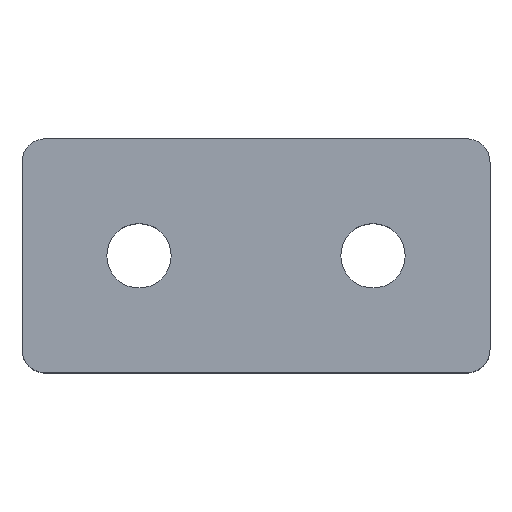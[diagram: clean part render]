
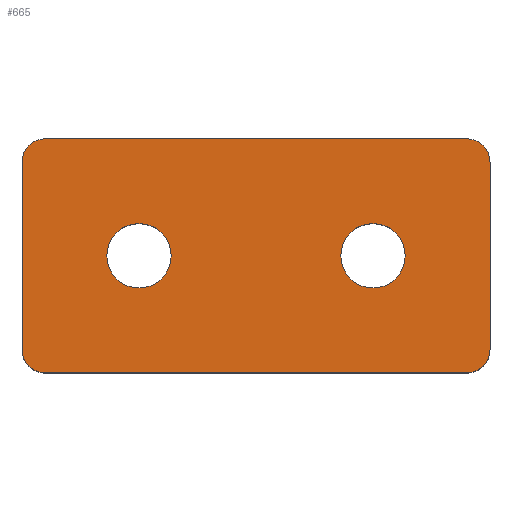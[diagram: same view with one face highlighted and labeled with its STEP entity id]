
A CAD part, top view. The second image highlights one B-rep face of the part: STEP entity #665.
In plain terms, the highlighted planar face has unit normal (0, 0, 1).
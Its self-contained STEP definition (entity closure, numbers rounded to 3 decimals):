
#13=DIRECTION('',(1.,0.,0.));
#14=VECTOR('',#13,36.);
#15=CARTESIAN_POINT('',(-18.,-10.,0.));
#16=LINE('',#15,#14);
#22=CARTESIAN_POINT('',(10.,0.,0.));
#23=DIRECTION('',(0.,0.,-1.));
#24=DIRECTION('',(1.,0.,0.));
#25=AXIS2_PLACEMENT_3D('',#22,#23,#24);
#27=CARTESIAN_POINT('',(10.,0.,0.));
#28=DIRECTION('',(0.,0.,-1.));
#29=DIRECTION('',(-1.,0.,0.));
#30=AXIS2_PLACEMENT_3D('',#27,#28,#29);
#32=CARTESIAN_POINT('',(-10.,0.,0.));
#33=DIRECTION('',(0.,0.,-1.));
#34=DIRECTION('',(1.,0.,0.));
#35=AXIS2_PLACEMENT_3D('',#32,#33,#34);
#37=CARTESIAN_POINT('',(-10.,0.,0.));
#38=DIRECTION('',(0.,0.,-1.));
#39=DIRECTION('',(-1.,0.,0.));
#40=AXIS2_PLACEMENT_3D('',#37,#38,#39);
#42=CARTESIAN_POINT('',(18.,8.,0.));
#43=DIRECTION('',(0.,0.,1.));
#44=DIRECTION('',(1.,0.,0.));
#45=AXIS2_PLACEMENT_3D('',#42,#43,#44);
#47=CARTESIAN_POINT('',(18.,-8.,0.));
#48=DIRECTION('',(0.,0.,1.));
#49=DIRECTION('',(0.,-1.,0.));
#50=AXIS2_PLACEMENT_3D('',#47,#48,#49);
#52=CARTESIAN_POINT('',(-18.,-8.,0.));
#53=DIRECTION('',(0.,0.,1.));
#54=DIRECTION('',(-1.,0.,0.));
#55=AXIS2_PLACEMENT_3D('',#52,#53,#54);
#57=DIRECTION('',(0.,1.,0.));
#58=VECTOR('',#57,16.);
#59=CARTESIAN_POINT('',(-20.,-8.,0.));
#60=LINE('',#59,#58);
#61=CARTESIAN_POINT('',(-18.,8.,0.));
#62=DIRECTION('',(0.,0.,1.));
#63=DIRECTION('',(0.,1.,0.));
#64=AXIS2_PLACEMENT_3D('',#61,#62,#63);
#412=DIRECTION('',(0.,1.,0.));
#413=VECTOR('',#412,16.);
#414=CARTESIAN_POINT('',(20.,-8.,0.));
#415=LINE('',#414,#413);
#420=DIRECTION('',(1.,0.,0.));
#421=VECTOR('',#420,36.);
#422=CARTESIAN_POINT('',(-18.,10.,0.));
#423=LINE('',#422,#421);
#533=CARTESIAN_POINT('',(12.75,0.,0.));
#534=CARTESIAN_POINT('',(7.25,0.,0.));
#535=VERTEX_POINT('',#533);
#536=VERTEX_POINT('',#534);
#547=CARTESIAN_POINT('',(-7.25,0.,0.));
#548=CARTESIAN_POINT('',(-12.75,0.,0.));
#549=VERTEX_POINT('',#547);
#550=VERTEX_POINT('',#548);
#569=CARTESIAN_POINT('',(20.,8.,0.));
#571=VERTEX_POINT('',#569);
#573=CARTESIAN_POINT('',(18.,10.,0.));
#574=VERTEX_POINT('',#573);
#577=CARTESIAN_POINT('',(18.,-10.,0.));
#578=CARTESIAN_POINT('',(20.,-8.,0.));
#579=VERTEX_POINT('',#577);
#580=VERTEX_POINT('',#578);
#585=CARTESIAN_POINT('',(-20.,-8.,0.));
#587=VERTEX_POINT('',#585);
#589=CARTESIAN_POINT('',(-18.,-10.,0.));
#590=VERTEX_POINT('',#589);
#593=CARTESIAN_POINT('',(-18.,10.,0.));
#594=CARTESIAN_POINT('',(-20.,8.,0.));
#595=VERTEX_POINT('',#593);
#596=VERTEX_POINT('',#594);
#632=CARTESIAN_POINT('',(-20.,-10.,0.));
#633=DIRECTION('',(0.,0.,1.));
#634=DIRECTION('',(1.,0.,0.));
#635=AXIS2_PLACEMENT_3D('',#632,#633,#634);
#636=PLANE('',#635);
#638=ORIENTED_EDGE('',*,*,#637,.F.);
#640=ORIENTED_EDGE('',*,*,#639,.F.);
#641=ORIENTED_EDGE('',*,*,#622,.F.);
#642=ORIENTED_EDGE('',*,*,#612,.F.);
#644=ORIENTED_EDGE('',*,*,#643,.F.);
#646=ORIENTED_EDGE('',*,*,#645,.T.);
#648=ORIENTED_EDGE('',*,*,#647,.F.);
#650=ORIENTED_EDGE('',*,*,#649,.T.);
#651=EDGE_LOOP('',(#638,#640,#641,#642,#644,#646,#648,#650));
#652=FACE_OUTER_BOUND('',#651,.F.);
#654=ORIENTED_EDGE('',*,*,#653,.F.);
#656=ORIENTED_EDGE('',*,*,#655,.F.);
#657=EDGE_LOOP('',(#654,#656));
#658=FACE_BOUND('',#657,.F.);
#660=ORIENTED_EDGE('',*,*,#659,.F.);
#662=ORIENTED_EDGE('',*,*,#661,.F.);
#663=EDGE_LOOP('',(#660,#662));
#664=FACE_BOUND('',#663,.F.);
#665=ADVANCED_FACE('',(#652,#658,#664),#636,.T.);
#26=CIRCLE('',#25,2.75);
#31=CIRCLE('',#30,2.75);
#36=CIRCLE('',#35,2.75);
#41=CIRCLE('',#40,2.75);
#46=CIRCLE('',#45,2.);
#51=CIRCLE('',#50,2.);
#56=CIRCLE('',#55,2.);
#65=CIRCLE('',#64,2.);
#612=EDGE_CURVE('',#590,#579,#16,.T.);
#622=EDGE_CURVE('',#579,#580,#51,.T.);
#637=EDGE_CURVE('',#571,#574,#46,.T.);
#639=EDGE_CURVE('',#580,#571,#415,.T.);
#643=EDGE_CURVE('',#587,#590,#56,.T.);
#645=EDGE_CURVE('',#587,#596,#60,.T.);
#647=EDGE_CURVE('',#595,#596,#65,.T.);
#649=EDGE_CURVE('',#595,#574,#423,.T.);
#653=EDGE_CURVE('',#549,#550,#36,.T.);
#655=EDGE_CURVE('',#550,#549,#41,.T.);
#659=EDGE_CURVE('',#535,#536,#26,.T.);
#661=EDGE_CURVE('',#536,#535,#31,.T.);
